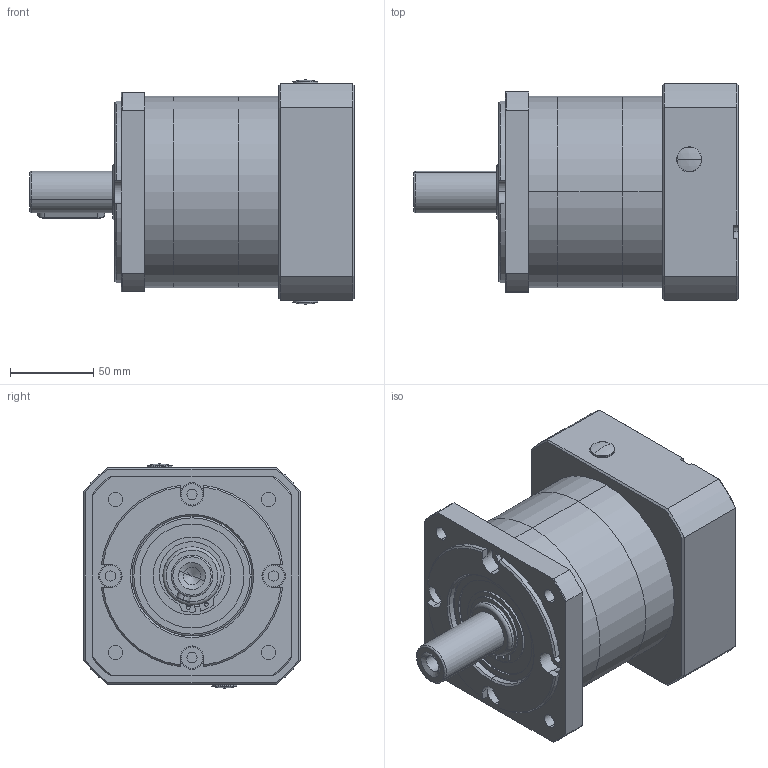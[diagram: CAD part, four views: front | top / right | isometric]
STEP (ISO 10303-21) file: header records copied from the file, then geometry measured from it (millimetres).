
FILE_DESCRIPTION (( 'STEP AP203' ), '1' );
FILE_NAME ('PF115L1-i-P2-S2-22-58-110-145-M8.step', '2020-03-23T09:05:21', ( '个人用户' ), ( '微软中国' ), 'SwSTEP 2.0', 'SolidWorks 2018', '' );
FILE_SCHEMA (( 'CONFIG_CONTROL_DESIGN' ));
Length unit declared in the file: millimetre
Products named in the file (1): PF115L1-i-P2-S2-22-58-110-145-M8
Bounding box: 195 x 130 x 134.6 mm (x, y, z)
Volume: 1386277.6 mm3; surface area: 306973.2 mm2
Topology: 34 solids, 34 shells, 1095 faces, 2573 edges, 1630 vertices
Faces by surface type: cylinder 375, plane 304, sphere 172, cone 124, torus 118, bspline 2
Entity records: 37830 total; most frequent: CARTESIAN_POINT 11986, DIRECTION 5773, ORIENTED_EDGE 5114, EDGE_CURVE 2557, AXIS2_PLACEMENT_3D 2473, VERTEX_POINT 1630, CIRCLE 1379, EDGE_LOOP 1291
